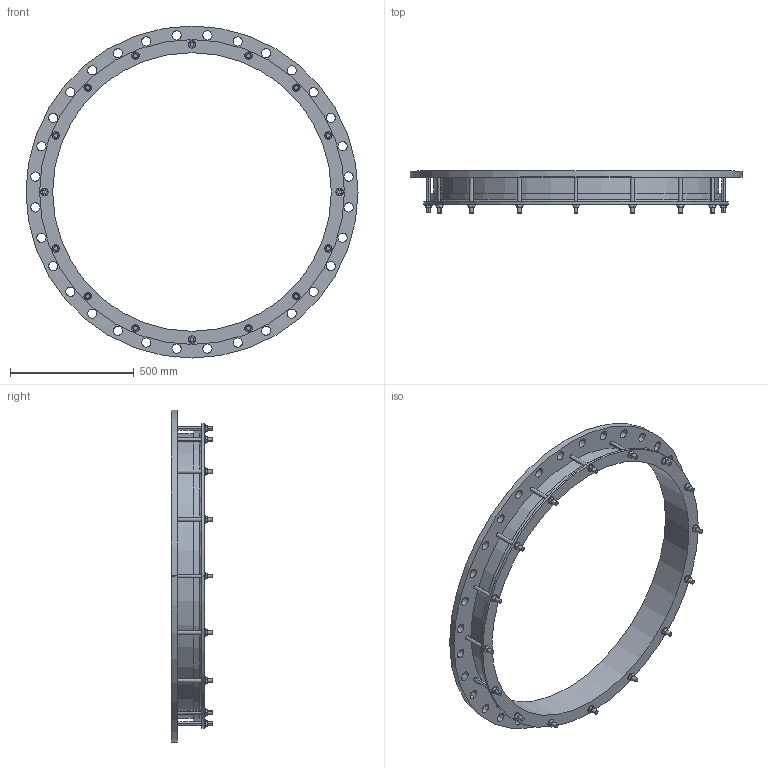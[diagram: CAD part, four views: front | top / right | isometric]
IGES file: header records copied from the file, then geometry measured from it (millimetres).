
Start section:  PTC IGES file: 1121x1100pn10.igs
Global section: file name: 1121x1100pn10.igs; native system: Creo Parametric by PTC Inc.; preprocessor: 2016130; author: mfairey; organization: Unknown; date: 20190117.112931; units: millimetre
Bounding box: 1340 x 169 x 1340 mm (x, y, z)
Surface area: 2236085.3 mm2 (no closed solid volume)
Topology: 0 solids, 0 shells, 322 faces, 1708 edges, 1708 vertices
Faces by surface type: revolution 174, bspline 148
